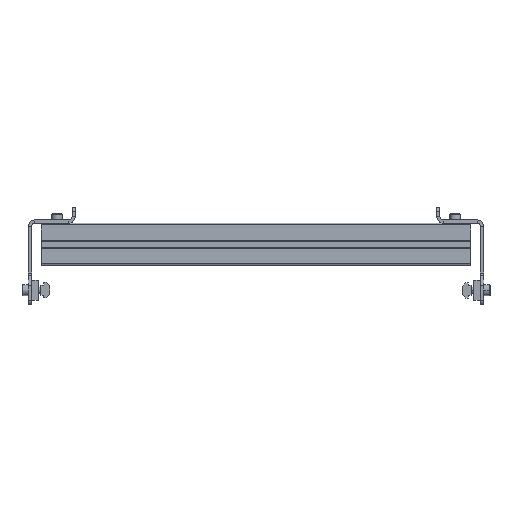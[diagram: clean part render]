
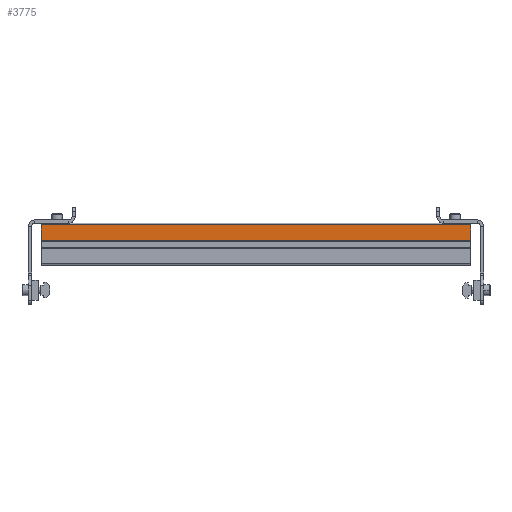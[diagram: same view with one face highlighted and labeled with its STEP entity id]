
A CAD part, top view. The second image highlights one B-rep face of the part: STEP entity #3775.
In plain terms, the highlighted planar face has unit normal (0, 0, 1) as drawn and (0, 1, 0) by its records, which use the part's own axes.
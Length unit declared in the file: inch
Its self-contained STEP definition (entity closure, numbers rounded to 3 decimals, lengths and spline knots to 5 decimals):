
#2 = VERTEX_POINT ( 'NONE', #3288 ) ;
#772 = PLANE ( 'NONE',  #4532 ) ;
#774 = EDGE_CURVE ( 'NONE', #5849, #3439, #6142, .T. ) ;
#926 = DIRECTION ( 'NONE',  ( -1., 0., 0. ) ) ;
#1202 = VECTOR ( 'NONE', #4849, 39.37008 ) ;
#1460 = CARTESIAN_POINT ( 'NONE',  ( -0.7875, 0.441, 75. ) ) ;
#1467 = DIRECTION ( 'NONE',  ( 1., 0., 0. ) ) ;
#1510 = CARTESIAN_POINT ( 'NONE',  ( 0.7875, 0.441, -7.98 ) ) ;
#1682 = EDGE_CURVE ( 'NONE', #2, #4997, #4284, .T. ) ;
#1941 = CARTESIAN_POINT ( 'NONE',  ( -0.14758, 0.441, -7.98 ) ) ;
#2182 = DIRECTION ( 'NONE',  ( 0., -1., 0. ) ) ;
#2271 = LINE ( 'NONE', #6088, #1202 ) ;
#2649 = CARTESIAN_POINT ( 'NONE',  ( -0.14758, 0.441, -75. ) ) ;
#2780 = FACE_OUTER_BOUND ( 'NONE', #3882, .T. ) ;
#2928 = CARTESIAN_POINT ( 'NONE',  ( -0.14758, 0.441, 7.98 ) ) ;
#3288 = CARTESIAN_POINT ( 'NONE',  ( -0.725, 0.441, -7.98 ) ) ;
#3305 = VECTOR ( 'NONE', #926, 39.37008 ) ;
#3439 = VERTEX_POINT ( 'NONE', #7834 ) ;
#3712 = ORIENTED_EDGE ( 'NONE', *, *, #774, .F. ) ;
#3775 = ADVANCED_FACE ( 'NONE', ( #2780 ), #772, .F. ) ;
#3869 = DIRECTION ( 'NONE',  ( 0., 0., 1. ) ) ;
#3882 = EDGE_LOOP ( 'NONE', ( #8314, #7538, #7964, #3712 ) ) ;
#4185 = EDGE_CURVE ( 'NONE', #4997, #5849, #5861, .T. ) ;
#4284 = LINE ( 'NONE', #1510, #4687 ) ;
#4532 = AXIS2_PLACEMENT_3D ( 'NONE', #1460, #2182, #6634 ) ;
#4687 = VECTOR ( 'NONE', #1467, 39.37008 ) ;
#4849 = DIRECTION ( 'NONE',  ( 0., 0., 1. ) ) ;
#4997 = VERTEX_POINT ( 'NONE', #1941 ) ;
#5385 = EDGE_CURVE ( 'NONE', #2, #3439, #2271, .T. ) ;
#5750 = VECTOR ( 'NONE', #3869, 39.37008 ) ;
#5849 = VERTEX_POINT ( 'NONE', #2928 ) ;
#5861 = LINE ( 'NONE', #2649, #5750 ) ;
#6088 = CARTESIAN_POINT ( 'NONE',  ( -0.725, 0.441, 75. ) ) ;
#6142 = LINE ( 'NONE', #7333, #3305 ) ;
#6634 = DIRECTION ( 'NONE',  ( 0., 0., -1. ) ) ;
#7333 = CARTESIAN_POINT ( 'NONE',  ( 0.7875, 0.441, 7.98 ) ) ;
#7538 = ORIENTED_EDGE ( 'NONE', *, *, #1682, .F. ) ;
#7834 = CARTESIAN_POINT ( 'NONE',  ( -0.725, 0.441, 7.98 ) ) ;
#7964 = ORIENTED_EDGE ( 'NONE', *, *, #5385, .T. ) ;
#8314 = ORIENTED_EDGE ( 'NONE', *, *, #4185, .F. ) ;
